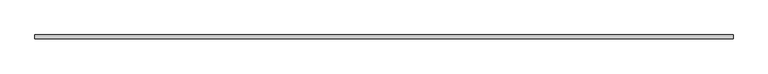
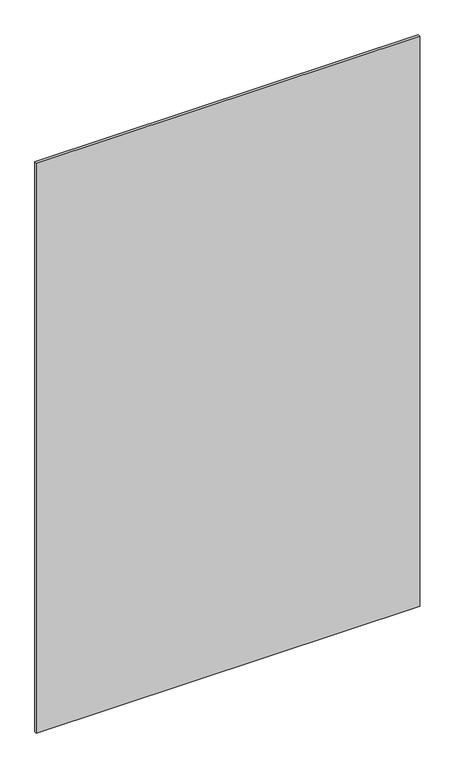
"""IFC4 building model written with IfcOpenShell, lengths in millimetres: plate geometry, 系統嵌板 : 玻璃 1.0cm."""

from ifc_helpers import new_model, si_unit, origin, origin_with_axes, place, context, project, spatial, polyline, outline, extrude, source, transform, mapped, element, save


def plate_f02ba564(model_context):
    return source(origin(), model_context, "Body", "SweptSolid", [
        extrude(outline(polyline([(875.0, -5.0), (-875.0, -5.0), (-875.0, 5.0), (875.0, 5.0), (875.0, -5.0)])), origin_with_axes(), (0.0, 0.0, 1.0), 2750.0),
    ])


if __name__ == "__main__":
    model = new_model("IFC4")
    model_context = context("Model", 3, world=origin())
    ifc_project = project(units=[si_unit("LENGTHUNIT", "METRE", prefix="MILLI")], contexts=[model_context])
    site = spatial("IfcSite", under=ifc_project)
    building = spatial("IfcBuilding", under=site)
    placement = place(None, origin())
    plate_shape = plate_f02ba564(model_context)
    element("IfcPlate", 1, ObjectType="系統嵌板 : 玻璃 1.0cm", at=placement, inside=building, context=model_context, shape_type="MappedRepresentation", body=[
        mapped(plate_shape, transform((0.0, 0.0, 0.0), x_axis=(1.0, 0.0, 0.0), y_axis=(0.0, 1.0, 0.0), z_axis=(0.0, 0.0, 1.0))),
    ])
    save(model, "model.ifc")
